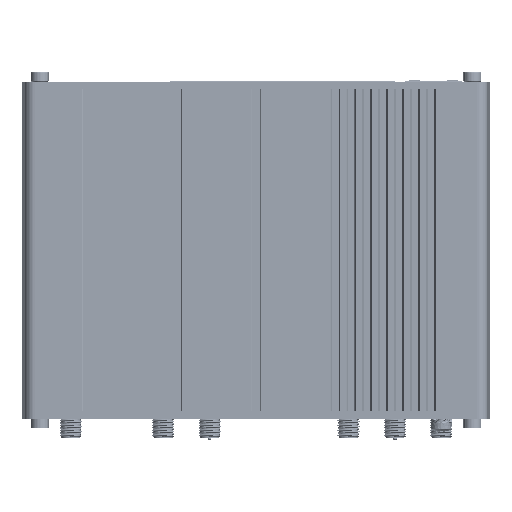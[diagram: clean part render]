
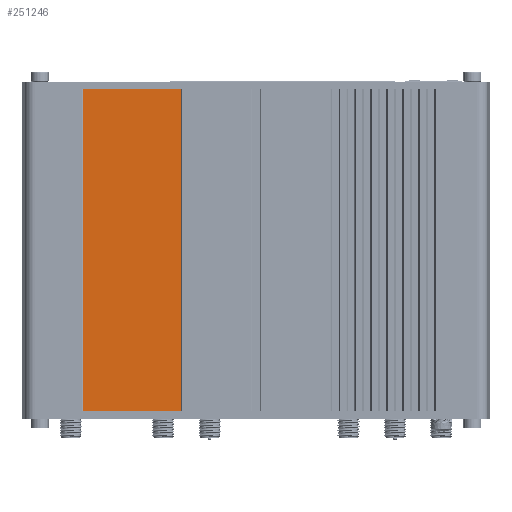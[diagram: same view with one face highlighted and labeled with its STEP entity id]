
A CAD part, front view. The second image highlights one B-rep face of the part: STEP entity #251246.
In plain terms, the highlighted planar face has unit normal (0, -1, 0).
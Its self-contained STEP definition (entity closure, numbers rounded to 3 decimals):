
#96353 = CARTESIAN_POINT ( 'NONE',  ( -49., 5.024, 0. ) ) ;
#225234 = VERTEX_POINT ( 'NONE', #716099 ) ;
#251246 = ADVANCED_FACE ( 'NONE', ( #637254 ), #321810, .F. ) ;
#265699 = DIRECTION ( 'NONE',  ( 0., 0., 1. ) ) ;
#274611 = DIRECTION ( 'NONE',  ( -1., 0., 0. ) ) ;
#286478 = VERTEX_POINT ( 'NONE', #621510 ) ;
#295705 = EDGE_CURVE ( 'NONE', #393573, #286478, #960787, .T. ) ;
#321810 = PLANE ( 'NONE',  #661265 ) ;
#345491 = CARTESIAN_POINT ( 'NONE',  ( -21.1, 5.024, 91. ) ) ;
#356168 = LINE ( 'NONE', #887308, #523789 ) ;
#392024 = DIRECTION ( 'NONE',  ( 0., 0., 1. ) ) ;
#393573 = VERTEX_POINT ( 'NONE', #829342 ) ;
#467692 = ORIENTED_EDGE ( 'NONE', *, *, #295705, .T. ) ;
#472101 = DIRECTION ( 'NONE',  ( 0., 1., 0. ) ) ;
#501613 = DIRECTION ( 'NONE',  ( -1., 0., 0. ) ) ;
#509956 = LINE ( 'NONE', #670077, #537403 ) ;
#523789 = VECTOR ( 'NONE', #501613, 1000. ) ;
#537403 = VECTOR ( 'NONE', #274611, 1000. ) ;
#573593 = VERTEX_POINT ( 'NONE', #345491 ) ;
#576223 = CARTESIAN_POINT ( 'NONE',  ( -21.1, 5.024, 91. ) ) ;
#621510 = CARTESIAN_POINT ( 'NONE',  ( -48.9, 5.024, 0. ) ) ;
#637254 = FACE_OUTER_BOUND ( 'NONE', #967573, .T. ) ;
#655118 = CARTESIAN_POINT ( 'NONE',  ( -48.9, 5.024, 0. ) ) ;
#661265 = AXIS2_PLACEMENT_3D ( 'NONE', #96353, #472101, #392024 ) ;
#670077 = CARTESIAN_POINT ( 'NONE',  ( -49., 5.024, 91. ) ) ;
#716099 = CARTESIAN_POINT ( 'NONE',  ( -21.1, 5.024, 0. ) ) ;
#725397 = EDGE_CURVE ( 'NONE', #225234, #573593, #957066, .T. ) ;
#749192 = ORIENTED_EDGE ( 'NONE', *, *, #725397, .T. ) ;
#803460 = VECTOR ( 'NONE', #885610, 1000. ) ;
#829342 = CARTESIAN_POINT ( 'NONE',  ( -48.9, 5.024, 91. ) ) ;
#850066 = EDGE_CURVE ( 'NONE', #573593, #393573, #509956, .T. ) ;
#852047 = EDGE_CURVE ( 'NONE', #225234, #286478, #356168, .T. ) ;
#885610 = DIRECTION ( 'NONE',  ( 0., 0., -1. ) ) ;
#887308 = CARTESIAN_POINT ( 'NONE',  ( -49., 5.024, 0. ) ) ;
#888453 = ORIENTED_EDGE ( 'NONE', *, *, #850066, .T. ) ;
#924970 = VECTOR ( 'NONE', #265699, 1000. ) ;
#957066 = LINE ( 'NONE', #576223, #924970 ) ;
#960787 = LINE ( 'NONE', #655118, #803460 ) ;
#966460 = ORIENTED_EDGE ( 'NONE', *, *, #852047, .F. ) ;
#967573 = EDGE_LOOP ( 'NONE', ( #966460, #749192, #888453, #467692 ) ) ;
